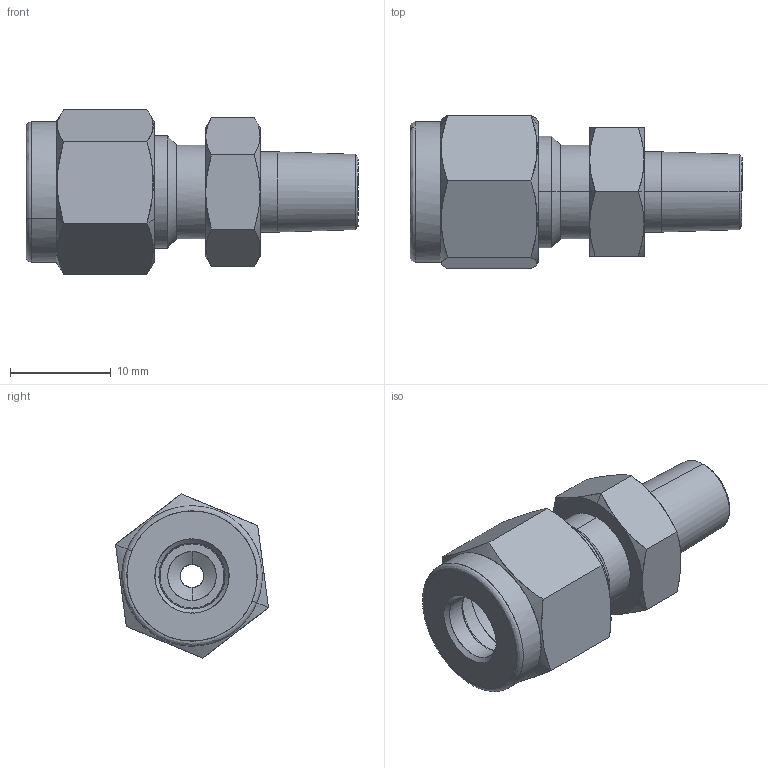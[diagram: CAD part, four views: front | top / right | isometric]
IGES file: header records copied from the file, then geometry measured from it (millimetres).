
Start section: Comment
Global section: file name: SMC4-1N.igs; native system:  By UGS Corp.; preprocessor: XPlus GENERIC/IGES 3.0; author: Author; organization: Title; date: 20100113.145624; units: millimetre
Bounding box: 32.88 x 15.16 x 16.26 mm (x, y, z)
Surface area: 2728.2 mm2 (no closed solid volume)
Topology: 0 solids, 0 shells, 94 faces, 536 edges, 531 vertices
Faces by surface type: bspline 94
